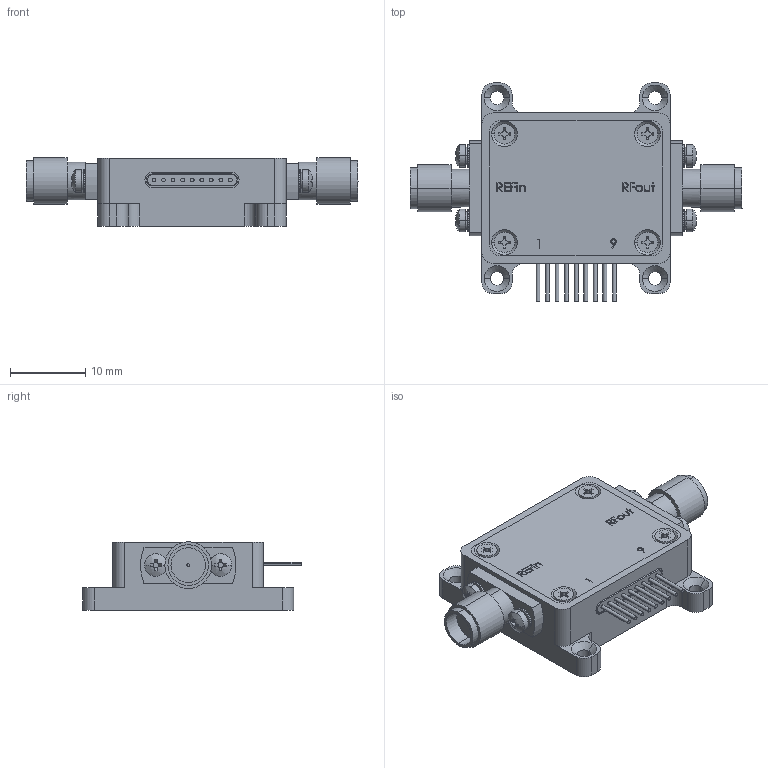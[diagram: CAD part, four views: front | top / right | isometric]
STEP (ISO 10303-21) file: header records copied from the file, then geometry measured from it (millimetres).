
FILE_DESCRIPTION (( 'STEP AP203' ), '1' );
FILE_NAME ('蚾饜极1.STEP', '2026-08-26T13:39:07', ( 'Windows User' ), ( 'P R C' ), 'SwSTEP 2.0', 'SolidWorks 2013', '' );
FILE_SCHEMA (( 'CONFIG_CONTROL_DESIGN' ));
Length unit declared in the file: millimetre
Products named in the file (8): 褲极; 裔啣; 麥芛蹟隊M1.6X4; 蚾饜极1; SMA-KFD148-2013; LP9-1.27-2013; 郪磁蹟隊M1.6X4; NY191030-2013
Assembly tree (15 placements, depth 2):
  蚾饜极1
    褲极
    裔啣
    NY191030-2013  x2
    LP9-1.27-2013
    SMA-KFD148-2013  x2
    郪磁蹟隊M1.6X4  x4
    麥芛蹟隊M1.6X4  x4
Bounding box: 44.1 x 29 x 9.1 mm (x, y, z)
Volume: 4234.1 mm3; surface area: 4864.1 mm2
Topology: 23 solids, 23 shells, 1043 faces, 2691 edges, 1750 vertices
Faces by surface type: cylinder 533, plane 361, bspline 77, cone 40, torus 32
Entity records: 24307 total; most frequent: CARTESIAN_POINT 9945, ORIENTED_EDGE 2868, DIRECTION 2614, EDGE_CURVE 1434, VERTEX_POINT 941, AXIS2_PLACEMENT_3D 912, LINE 790, VECTOR 790
